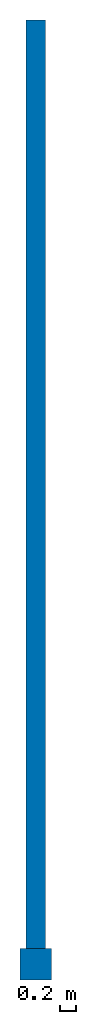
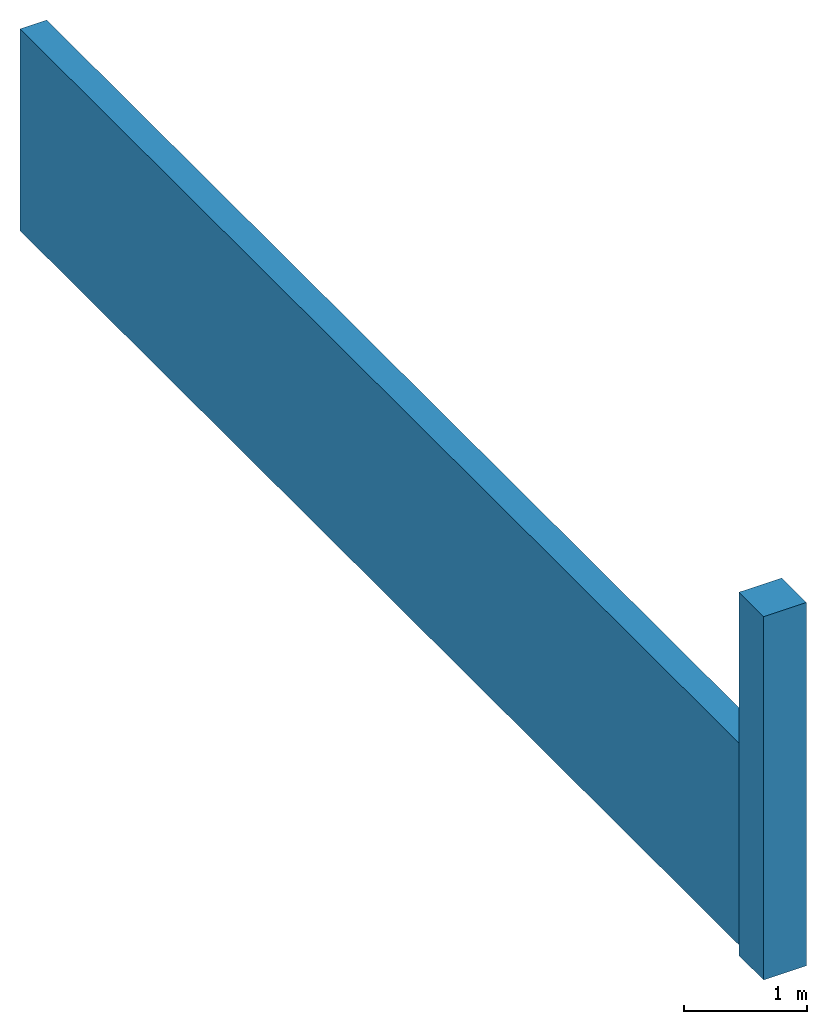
# One storey: 1 column, 1 wall, 2 elements without a shape of their own.
"""IFC2X3 building model written with IfcOpenShell, lengths in millimetres."""

from ifc_helpers import new_model, si_unit, frame, frame_2d, origin_with_axes, origin_2d_with_axis, place, context, subcontext, project, spatial, rectangle, extrude, material, type_object, element, aggregate, save


model = new_model("IFC2X3")

# Units and contexts
model_context = context("Model", 3, precision=1e-05, world=origin_with_axes())
body_context = subcontext(model_context, "Body", "Model", "MODEL_VIEW")
ifc_project = project(units=[si_unit("LENGTHUNIT", "METRE", prefix="MILLI"), si_unit("AREAUNIT", "SQUARE_METRE"), si_unit("VOLUMEUNIT", "CUBIC_METRE"), si_unit("MASSUNIT", "GRAM", prefix="KILO"), si_unit("TIMEUNIT", "SECOND"), si_unit("PLANEANGLEUNIT", "RADIAN"), si_unit("SOLIDANGLEUNIT", "STERADIAN"), si_unit("THERMODYNAMICTEMPERATUREUNIT", "DEGREE_CELSIUS"), si_unit("LUMINOUSINTENSITYUNIT", "LUMEN")], contexts=[model_context])

# Site, building, storey
site_placement = place(None, origin_with_axes())
site = spatial("IfcSite", under=ifc_project, at=site_placement, Name="Undefined", CompositionType="ELEMENT")
building_placement = place(site_placement, origin_with_axes())
building = spatial("IfcBuilding", under=site, at=building_placement, Name="Undefined", CompositionType="ELEMENT")
storey_placement = place(building_placement, origin_with_axes())
storey = spatial("IfcBuildingStorey", under=building, at=storey_placement, Name="Undefined", CompositionType="ELEMENT", Elevation=0.0)

# Assembly, column
assembly_1_placement = place(storey_placement, origin_with_axes())
assembly_1 = element("IfcElementAssembly", 1, at=assembly_1_placement, inside=storey, Name="PILAR", AssemblyPlace="NOTDEFINED", PredefinedType="REINFORCEMENT_UNIT")
ifc_material = material(Name="CONCRETE/C20/25")
column_type = type_object("IfcColumnType", Name="400X400", PredefinedType="NOTDEFINED")
column_placement = place(assembly_1_placement, frame((0.0, 0.0, 0.0), z_axis=(0.0, 0.0, 1.0), x_axis=(0.0, 1.0, 0.0)))
column = element("IfcColumn", 2, at=column_placement, type_object=column_type, material=ifc_material, Name="PILAR", ObjectType="400X400", context=body_context, shape_type="SweptSolid", body=[
    extrude(rectangle(XDim=400.0, YDim=400.0, at=origin_2d_with_axis()), frame((0.0, 0.0, 3600.0), z_axis=(0.0, 0.0, -1.0), x_axis=(0.0, 1.0, 0.0)), (0.0, 0.0, 1.0), 3600.0),
])
aggregate(assembly_1, [column])

# Assembly, wall
assembly_2_placement = place(storey_placement, origin_with_axes())
assembly_2 = element("IfcElementAssembly", 3, at=assembly_2_placement, inside=storey, Name="PAREDE", AssemblyPlace="NOTDEFINED", PredefinedType="REINFORCEMENT_UNIT")
wall_type = type_object("IfcWallType", Name="250X2000", PredefinedType="NOTDEFINED")
wall_placement = place(assembly_2_placement, frame((0.0, 0.0, 0.0), z_axis=(0.0, 0.0, 1.0), x_axis=(0.0, 1.0, 0.0)))
wall = element("IfcWall", 4, at=wall_placement, type_object=wall_type, material=ifc_material, Name="PAREDE", ObjectType="250X2000", context=body_context, shape_type="SweptSolid", body=[
    extrude(rectangle(XDim=12000.0, YDim=250.0, at=frame_2d((0.0, 6000.0), x_axis=(0.0, -1.0))), frame((0.0, 0.0, 0.0), z_axis=(0.0, 0.0, 1.0), x_axis=(0.0, -1.0, 0.0)), (0.0, 0.0, 1.0), 2000.0),
])
aggregate(assembly_2, [wall])

save(model, "model.ifc")
